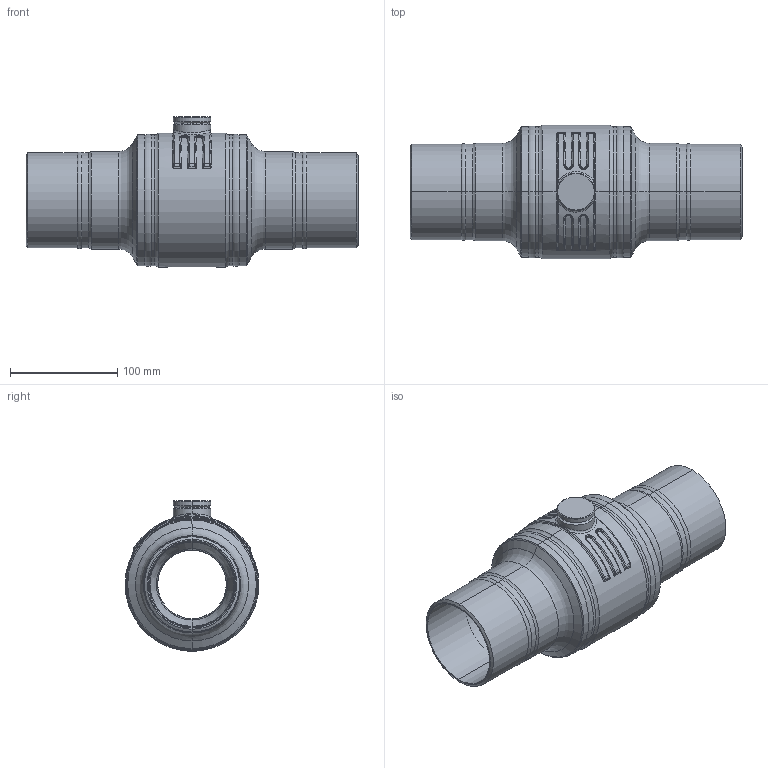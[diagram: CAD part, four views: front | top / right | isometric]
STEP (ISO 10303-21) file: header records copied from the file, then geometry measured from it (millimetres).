
FILE_DESCRIPTION((''),'2;1');
FILE_NAME('KHMO-BH-R-ISKT-080R065P040','2025-02-11T17:03:54',('jeitlers'),('KLINGER'),'CREO PARAMETRIC BY PTC INC, 2023014','CREO PARAMETRIC BY PTC INC, 2023014','');
FILE_SCHEMA(('CONFIG_CONTROL_DESIGN'));
Length unit declared in the file: millimetre
Products named in the file (1): KHMO-BH-R-ISKT-080R065P040
Bounding box: 310 x 125 x 140.5 mm (x, y, z)
Volume: 1075310.8 mm3; surface area: 287006.7 mm2
Topology: 4 solids, 4 shells, 496 faces, 1065 edges, 594 vertices
Faces by surface type: torus 140, cylinder 135, cone 74, plane 73, bspline 72, sphere 2
Entity records: 22111 total; most frequent: CARTESIAN_POINT 11534, DIRECTION 2378, ORIENTED_EDGE 2126, EDGE_CURVE 1063, AXIS2_PLACEMENT_3D 1053, CIRCLE 629, VERTEX_POINT 594, EDGE_LOOP 527
